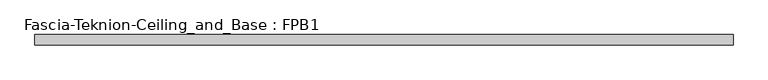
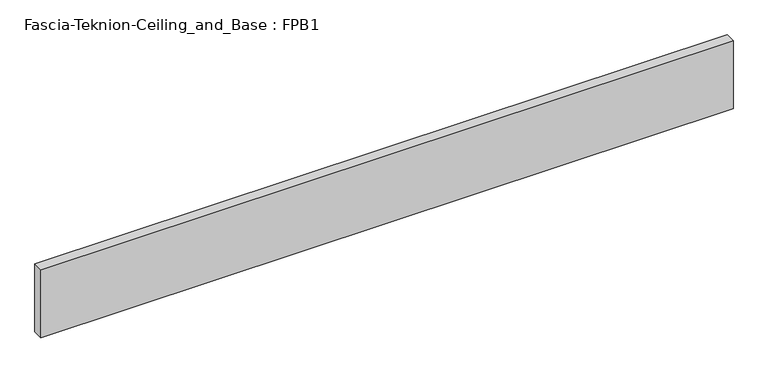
"""IFC4 building model written with IfcOpenShell, lengths in millimetres: proxy geometry, Fascia-Teknion-Ceiling_and_Base : FPB1."""

from ifc_helpers import new_model, si_unit, origin, origin_with_axes, place, context, project, spatial, polyline, outline, extrude, source, transform, mapped, element, save


def fascia_teknion_ceiling_and_base_fpb1_13b4bfed(model_context):
    return source(origin(), model_context, "Body", "SweptSolid", [
        extrude(outline(polyline([(635.0, 0.0), (635.0, -19.05), (-635.0, -19.05), (-635.0, 0.0), (635.0, 0.0)])), origin_with_axes(), (0.0, 0.0, 1.0), 132.08),
    ])


if __name__ == "__main__":
    model = new_model("IFC4")
    model_context = context("Model", 3, world=origin())
    ifc_project = project(units=[si_unit("LENGTHUNIT", "METRE", prefix="MILLI")], contexts=[model_context])
    site = spatial("IfcSite", under=ifc_project)
    building = spatial("IfcBuilding", under=site)
    placement = place(None, origin())
    fascia_teknion_ceiling_and_base_fpb1_shape = fascia_teknion_ceiling_and_base_fpb1_13b4bfed(model_context)
    element("IfcBuildingElementProxy", 1, Name="Fascia-Teknion-Ceiling_and_Base : FPB1", ObjectType="Fascia-Teknion-Ceiling_and_Base : FPB1", at=placement, inside=building, context=model_context, shape_type="MappedRepresentation", body=[
        mapped(fascia_teknion_ceiling_and_base_fpb1_shape, transform((0.0, 0.0, 0.0), x_axis=(1.0, 0.0, 0.0), y_axis=(0.0, 1.0, 0.0), z_axis=(0.0, 0.0, 1.0))),
    ])
    save(model, "model.ifc")
